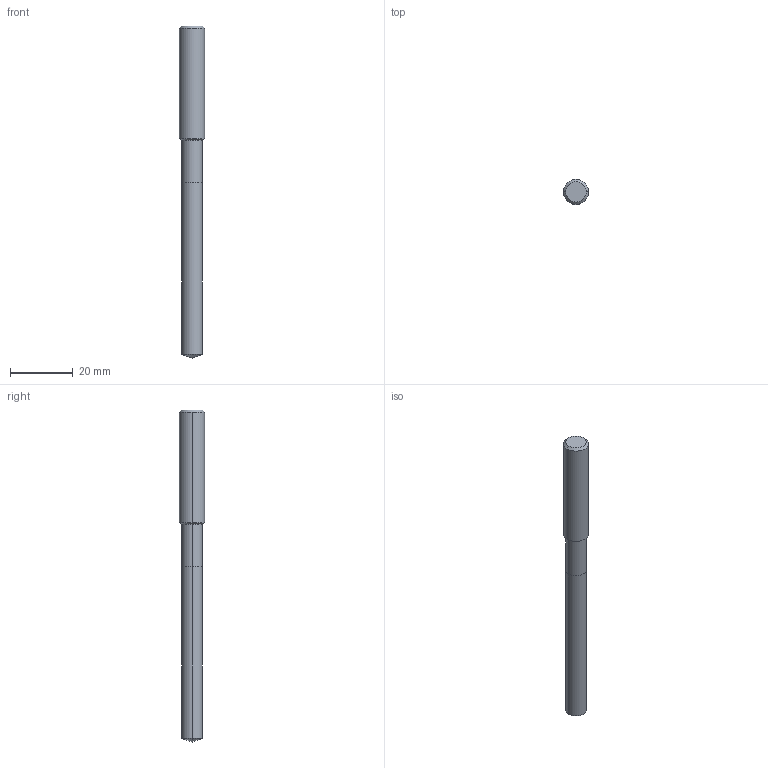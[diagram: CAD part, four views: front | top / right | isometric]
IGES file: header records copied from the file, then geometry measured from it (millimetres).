
Start section: 3D InterOp IGES (v. 2020 1.0.1), Spatial Corp. Copyright (c) 1999-2017.
Global section: file name: WZB12225_6.5.igs; native system: Spatial Corp.; preprocessor: 3D InterOp GENERIC/IGES 3.0; author: Noname; organization: Noname; date: 20201104.104704; units: metre
Bounding box: 8 x 8 x 106 mm (x, y, z)
Surface area: 2393.4 mm2 (no closed solid volume)
Topology: 0 solids, 0 shells, 14 faces, 54 edges, 52 vertices
Faces by surface type: revolution 12, extrusion 2
